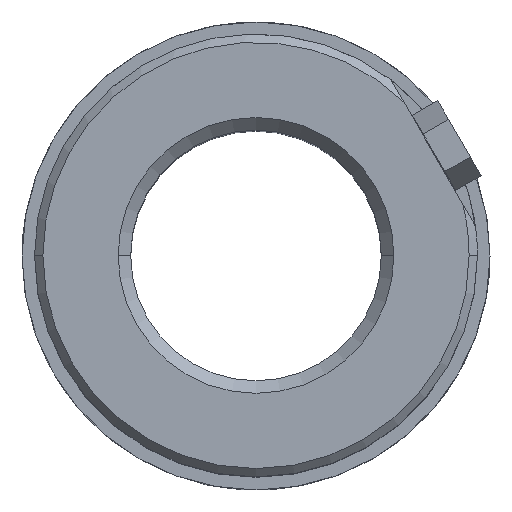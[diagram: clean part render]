
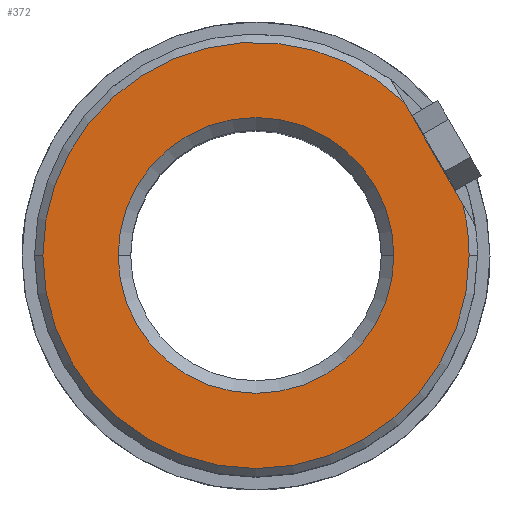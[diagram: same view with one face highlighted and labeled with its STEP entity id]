
A CAD part, top view. The second image highlights one B-rep face of the part: STEP entity #372.
In plain terms, the highlighted planar face has unit normal (0, 0, 1).
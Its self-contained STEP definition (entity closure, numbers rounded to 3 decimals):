
#245=CARTESIAN_POINT('Axis2P3D Location',(0.,0.,45.)) ;
#249=CARTESIAN_POINT('Vertex',(16.5,0.,45.)) ;
#251=CARTESIAN_POINT('Vertex',(-16.5,0.,45.)) ;
#324=CARTESIAN_POINT('Axis2P3D Location',(16.5,0.,45.)) ;
#329=CARTESIAN_POINT('Line Origine',(21.218,12.25,45.)) ;
#333=CARTESIAN_POINT('Vertex',(24.753,6.126,45.)) ;
#335=CARTESIAN_POINT('Vertex',(17.682,18.374,45.)) ;
#338=CARTESIAN_POINT('Axis2P3D Location',(0.,0.,45.)) ;
#342=CARTESIAN_POINT('Vertex',(-25.5,0.,45.)) ;
#345=CARTESIAN_POINT('Axis2P3D Location',(0.,0.,45.)) ;
#349=CARTESIAN_POINT('Vertex',(25.5,0.,45.)) ;
#352=CARTESIAN_POINT('Axis2P3D Location',(0.,0.,45.)) ;
#363=CARTESIAN_POINT('Axis2P3D Location',(0.,0.,45.)) ;
#246=DIRECTION('Axis2P3D Direction',(0.,-0.,1.)) ;
#325=DIRECTION('Axis2P3D Direction',(0.,-0.,1.)) ;
#326=DIRECTION('Axis2P3D XDirection',(1.,0.,0.)) ;
#330=DIRECTION('Vector Direction',(-0.5,0.866,0.)) ;
#339=DIRECTION('Axis2P3D Direction',(0.,-0.,1.)) ;
#346=DIRECTION('Axis2P3D Direction',(0.,-0.,1.)) ;
#353=DIRECTION('Axis2P3D Direction',(0.,-0.,1.)) ;
#364=DIRECTION('Axis2P3D Direction',(0.,-0.,1.)) ;
#247=AXIS2_PLACEMENT_3D('Circle Axis2P3D',#245,#246,$) ;
#327=AXIS2_PLACEMENT_3D('Plane Axis2P3D',#324,#325,#326) ;
#340=AXIS2_PLACEMENT_3D('Circle Axis2P3D',#338,#339,$) ;
#347=AXIS2_PLACEMENT_3D('Circle Axis2P3D',#345,#346,$) ;
#354=AXIS2_PLACEMENT_3D('Circle Axis2P3D',#352,#353,$) ;
#365=AXIS2_PLACEMENT_3D('Circle Axis2P3D',#363,#364,$) ;
#358=ORIENTED_EDGE('',*,*,#337,.T.) ;
#359=ORIENTED_EDGE('',*,*,#344,.T.) ;
#360=ORIENTED_EDGE('',*,*,#351,.T.) ;
#361=ORIENTED_EDGE('',*,*,#356,.T.) ;
#369=ORIENTED_EDGE('',*,*,#367,.F.) ;
#370=ORIENTED_EDGE('',*,*,#253,.F.) ;
#371=FACE_BOUND('',#368,.T.) ;
#331=VECTOR('Line Direction',#330,1.) ;
#372=ADVANCED_FACE('741-30',(#362,#371),#328,.T.) ;
#248=CIRCLE('generated circle',#247,16.5) ;
#341=CIRCLE('generated circle',#340,25.5) ;
#348=CIRCLE('generated circle',#347,25.5) ;
#355=CIRCLE('generated circle',#354,25.5) ;
#366=CIRCLE('generated circle',#365,16.5) ;
#253=EDGE_CURVE('',#250,#252,#248,.T.) ;
#337=EDGE_CURVE('',#334,#336,#332,.T.) ;
#344=EDGE_CURVE('',#336,#343,#341,.T.) ;
#351=EDGE_CURVE('',#343,#350,#348,.T.) ;
#356=EDGE_CURVE('',#350,#334,#355,.T.) ;
#367=EDGE_CURVE('',#252,#250,#366,.T.) ;
#357=EDGE_LOOP('',(#358,#359,#360,#361)) ;
#368=EDGE_LOOP('',(#369,#370)) ;
#362=FACE_OUTER_BOUND('',#357,.T.) ;
#332=LINE('Line',#329,#331) ;
#328=PLANE('Plane',#327) ;
#250=VERTEX_POINT('',#249) ;
#252=VERTEX_POINT('',#251) ;
#334=VERTEX_POINT('',#333) ;
#336=VERTEX_POINT('',#335) ;
#343=VERTEX_POINT('',#342) ;
#350=VERTEX_POINT('',#349) ;
